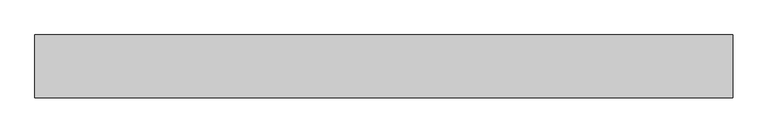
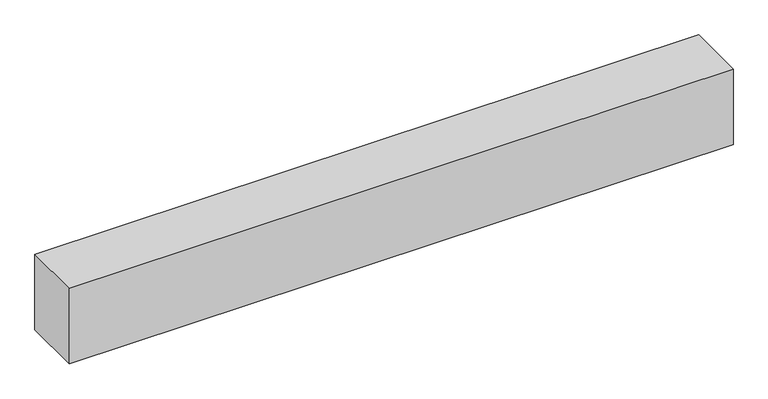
"""IFC4 building model written with IfcOpenShell, lengths in millimetres: beam geometry, NS R30 180x240x2000 : NS R30 180x240x2000."""

from ifc_helpers import new_model, si_unit, origin, origin_with_axes, place, context, project, spatial, polyline, outline, extrude, source, transform, mapped, element, save


def beam_9b35020c(model_context):
    return source(origin(), model_context, "Body", "SweptSolid", [
        extrude(outline(polyline([(-1000.0, -90.0), (-1000.0, 90.0), (1000.0, 90.0), (1000.0, -90.0), (-1000.0, -90.0)])), origin_with_axes(), (0.0, 0.0, 1.0), 240.0),
    ])


if __name__ == "__main__":
    model = new_model("IFC4")
    model_context = context("Model", 3, world=origin())
    ifc_project = project(units=[si_unit("LENGTHUNIT", "METRE", prefix="MILLI")], contexts=[model_context])
    site = spatial("IfcSite", under=ifc_project)
    building = spatial("IfcBuilding", under=site)
    placement = place(None, origin())
    beam_shape = beam_9b35020c(model_context)
    element("IfcBeam", 1, ObjectType="NS R30 180x240x2000 : NS R30 180x240x2000", at=placement, inside=building, context=model_context, shape_type="MappedRepresentation", body=[
        mapped(beam_shape, transform((0.0, 0.0, 0.0), x_axis=(1.0, 0.0, 0.0), y_axis=(0.0, 1.0, 0.0), z_axis=(0.0, 0.0, 1.0))),
    ])
    save(model, "model.ifc")
